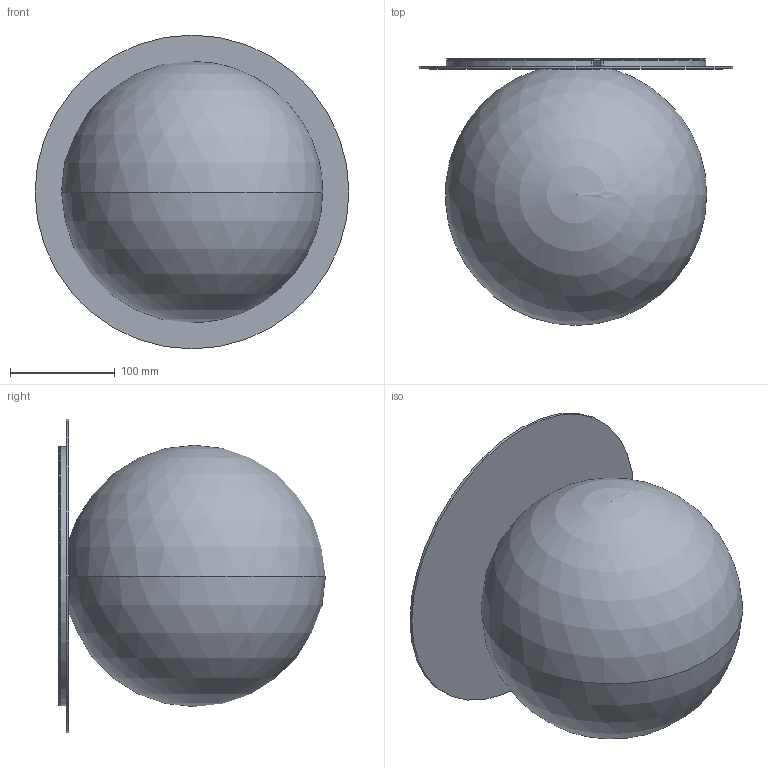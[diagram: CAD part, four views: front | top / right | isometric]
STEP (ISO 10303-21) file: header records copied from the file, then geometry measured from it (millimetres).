
FILE_DESCRIPTION (( 'STEP AP203' ), '1' );
FILE_NAME ('LTKI2501XXXXXXX-PER 3D.STEP', '2025-06-25T07:23:40', ( '' ), ( '' ), 'SwSTEP 2.0', 'SolidWorks 2024', '' );
FILE_SCHEMA (( 'CONFIG_CONTROL_DESIGN' ));
Length unit declared in the file: millimetre
Products named in the file (6): LTKI2501XXXXXXX-PER 3D; WSMCVIG-04A08-0141_WSMCVIG-04A08-0141; WSCM2C0220-0100-02; WSCM2C0209-0700-01_WSCM2C0209-0700-01; WSCM2C0219-0100-01; WSVAXXX0250BC7XX00
Assembly tree (7 placements, depth 2):
  LTKI2501XXXXXXX-PER 3D
    WSCM2C0209-0700-01_WSCM2C0209-0700-01
    WSVAXXX0250BC7XX00
    WSMCVIG-04A08-0141_WSMCVIG-04A08-0141  x3
    WSCM2C0219-0100-01
    WSCM2C0220-0100-02
Bounding box: 300 x 255 x 300 mm (x, y, z)
Volume: 1271543.6 mm3; surface area: 716638.5 mm2
Topology: 7 solids, 7 shells, 227 faces, 579 edges, 359 vertices
Faces by surface type: cylinder 85, plane 76, cone 56, torus 6, sphere 4
Entity records: 5767 total; most frequent: DIRECTION 967, CARTESIAN_POINT 875, ORIENTED_EDGE 830, EDGE_CURVE 415, AXIS2_PLACEMENT_3D 387, VERTEX_POINT 263, CIRCLE 214, EDGE_LOOP 208
